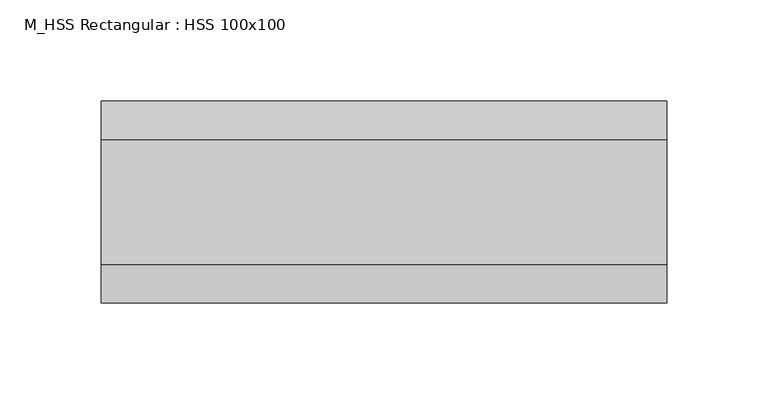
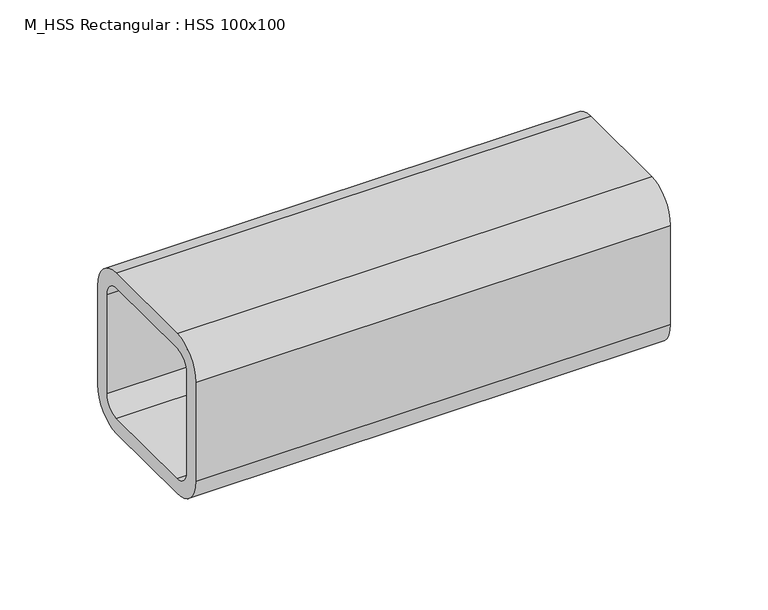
"""IFC4 building model written with IfcOpenShell, lengths in millimetres: beam geometry, M_HSS Rectangular : HSS 100x100."""

from ifc_helpers import new_model, si_unit, point, frame, frame_2d, origin, place, context, project, spatial, polyline, circle_curve, trimmed, segment, composite_curve, outline, extrude, source, transform, mapped, element, save


def m_hss_rectangular_hss_100x100_c08f57dd(model_context):
    return source(origin(), model_context, "Body", "SweptSolid", [
        extrude(outline(composite_curve([segment(polyline([(50.0, 30.94), (50.0, -30.94)]), True, "CONTINUOUS"), segment(trimmed(circle_curve(frame_2d((30.94, -30.94)), 19.06), [point((50.0, -30.94))], [point((30.94, -50.0))], False, "CARTESIAN"), True, "CONTINUOUS"), segment(polyline([(30.94, -50.0), (-30.94, -50.0)]), True, "CONTINUOUS"), segment(trimmed(circle_curve(frame_2d((-30.94, -30.94)), 19.06), [point((-30.94, -50.0))], [point((-50.0, -30.94))], False, "CARTESIAN"), True, "CONTINUOUS"), segment(polyline([(-50.0, -30.94), (-50.0, 30.94)]), True, "CONTINUOUS"), segment(trimmed(circle_curve(frame_2d((-30.94, 30.94)), 19.06), [point((-50.0, 30.94))], [point((-30.94, 50.0))], False, "CARTESIAN"), True, "CONTINUOUS"), segment(polyline([(-30.94, 50.0), (30.94, 50.0)]), True, "CONTINUOUS"), segment(trimmed(circle_curve(frame_2d((30.94, 30.94)), 19.06), [point((30.94, 50.0))], [point((50.0, 30.94))], False, "CARTESIAN"), True, "CONTINUOUS")], self_intersect=False), holes=[composite_curve([segment(trimmed(circle_curve(frame_2d((-30.94, 30.94)), 9.53), [point((-30.94, 40.47))], [point((-40.47, 30.94))], True, "CARTESIAN"), True, "CONTINUOUS"), segment(polyline([(-40.47, 30.94), (-40.47, -30.94)]), True, "CONTINUOUS"), segment(trimmed(circle_curve(frame_2d((-30.94, -30.94)), 9.53), [point((-40.47, -30.94))], [point((-30.94, -40.47))], True, "CARTESIAN"), True, "CONTINUOUS"), segment(polyline([(-30.94, -40.47), (30.94, -40.47)]), True, "CONTINUOUS"), segment(trimmed(circle_curve(frame_2d((30.94, -30.94)), 9.53), [point((30.94, -40.47))], [point((40.47, -30.94))], True, "CARTESIAN"), True, "CONTINUOUS"), segment(polyline([(40.47, -30.94), (40.47, 30.94)]), True, "CONTINUOUS"), segment(trimmed(circle_curve(frame_2d((30.94, 30.94)), 9.53), [point((40.47, 30.94))], [point((30.94, 40.47))], True, "CARTESIAN"), True, "CONTINUOUS"), segment(polyline([(30.94, 40.47), (-30.94, 40.47)]), True, "CONTINUOUS")], self_intersect=False)]), frame((-140.0, 0.0, 0.0), z_axis=(1.0, 0.0, 0.0), x_axis=(0.0, 1.0, 0.0)), (0.0, 0.0, 1.0), 280.0),
    ])


if __name__ == "__main__":
    model = new_model("IFC4")
    model_context = context("Model", 3, world=origin())
    ifc_project = project(units=[si_unit("LENGTHUNIT", "METRE", prefix="MILLI")], contexts=[model_context])
    site = spatial("IfcSite", under=ifc_project)
    building = spatial("IfcBuilding", under=site)
    placement = place(None, origin())
    m_hss_rectangular_hss_100x100_shape = m_hss_rectangular_hss_100x100_c08f57dd(model_context)
    element("IfcBeam", 1, ObjectType="M_HSS Rectangular : HSS 100x100", at=placement, inside=building, context=model_context, shape_type="MappedRepresentation", body=[
        mapped(m_hss_rectangular_hss_100x100_shape, transform((0.0, 0.0, 0.0), x_axis=(1.0, 0.0, 0.0), y_axis=(0.0, 1.0, 0.0), z_axis=(0.0, 0.0, 1.0))),
    ])
    save(model, "model.ifc")
